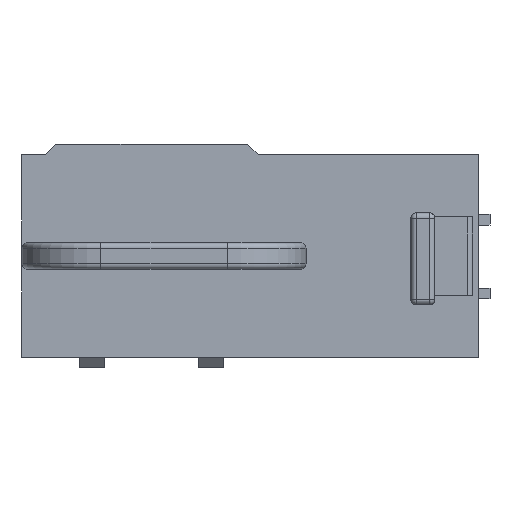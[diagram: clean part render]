
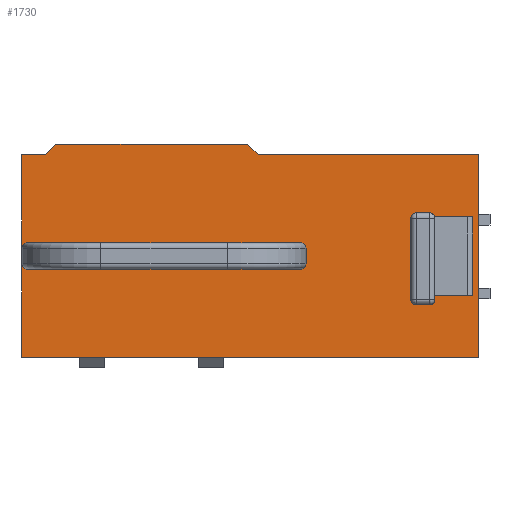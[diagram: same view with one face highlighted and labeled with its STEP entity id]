
A CAD part, left-side view. The second image highlights one B-rep face of the part: STEP entity #1730.
In plain terms, the highlighted planar face has unit normal (-1, 0, 0).
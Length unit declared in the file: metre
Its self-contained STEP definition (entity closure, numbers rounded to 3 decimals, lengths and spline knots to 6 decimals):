
#54=CIRCLE('',#1851,0.001);
#55=CIRCLE('',#1852,0.001);
#56=CIRCLE('',#1853,0.001);
#57=CIRCLE('',#1854,0.001);
#58=CIRCLE('',#1855,0.001);
#59=CIRCLE('',#1856,0.001);
#60=CIRCLE('',#1857,0.001);
#61=CIRCLE('',#1858,0.001);
#132=ORIENTED_EDGE('',*,*,#644,.F.);
#133=ORIENTED_EDGE('',*,*,#645,.T.);
#134=ORIENTED_EDGE('',*,*,#646,.T.);
#135=ORIENTED_EDGE('',*,*,#647,.T.);
#136=ORIENTED_EDGE('',*,*,#648,.T.);
#137=ORIENTED_EDGE('',*,*,#649,.T.);
#138=ORIENTED_EDGE('',*,*,#650,.F.);
#139=ORIENTED_EDGE('',*,*,#651,.T.);
#140=ORIENTED_EDGE('',*,*,#652,.F.);
#141=ORIENTED_EDGE('',*,*,#653,.T.);
#142=ORIENTED_EDGE('',*,*,#654,.T.);
#143=ORIENTED_EDGE('',*,*,#655,.T.);
#144=ORIENTED_EDGE('',*,*,#656,.T.);
#145=ORIENTED_EDGE('',*,*,#657,.T.);
#146=ORIENTED_EDGE('',*,*,#658,.T.);
#147=ORIENTED_EDGE('',*,*,#659,.F.);
#148=ORIENTED_EDGE('',*,*,#660,.F.);
#149=ORIENTED_EDGE('',*,*,#661,.T.);
#150=ORIENTED_EDGE('',*,*,#662,.T.);
#151=ORIENTED_EDGE('',*,*,#663,.T.);
#152=ORIENTED_EDGE('',*,*,#664,.T.);
#153=ORIENTED_EDGE('',*,*,#665,.T.);
#154=ORIENTED_EDGE('',*,*,#666,.T.);
#155=ORIENTED_EDGE('',*,*,#667,.T.);
#156=ORIENTED_EDGE('',*,*,#668,.F.);
#157=ORIENTED_EDGE('',*,*,#639,.T.);
#158=ORIENTED_EDGE('',*,*,#669,.T.);
#159=ORIENTED_EDGE('',*,*,#670,.F.);
#639=EDGE_CURVE('',#896,#895,#1056,.T.);
#644=EDGE_CURVE('',#899,#900,#1060,.T.);
#645=EDGE_CURVE('',#899,#901,#54,.F.);
#646=EDGE_CURVE('',#901,#902,#1061,.T.);
#647=EDGE_CURVE('',#902,#903,#55,.F.);
#648=EDGE_CURVE('',#903,#904,#1062,.T.);
#649=EDGE_CURVE('',#904,#905,#56,.F.);
#650=EDGE_CURVE('',#906,#905,#1063,.T.);
#651=EDGE_CURVE('',#906,#900,#57,.F.);
#652=EDGE_CURVE('',#907,#908,#1064,.T.);
#653=EDGE_CURVE('',#907,#909,#58,.F.);
#654=EDGE_CURVE('',#909,#910,#1065,.T.);
#655=EDGE_CURVE('',#910,#911,#59,.F.);
#656=EDGE_CURVE('',#911,#912,#1066,.T.);
#657=EDGE_CURVE('',#912,#913,#60,.F.);
#658=EDGE_CURVE('',#913,#914,#1067,.T.);
#659=EDGE_CURVE('',#915,#914,#1068,.T.);
#660=EDGE_CURVE('',#916,#915,#1069,.T.);
#661=EDGE_CURVE('',#916,#917,#1070,.T.);
#662=EDGE_CURVE('',#917,#918,#1071,.T.);
#663=EDGE_CURVE('',#918,#919,#1072,.T.);
#664=EDGE_CURVE('',#919,#920,#1073,.F.);
#665=EDGE_CURVE('',#920,#921,#1074,.T.);
#666=EDGE_CURVE('',#921,#922,#1075,.T.);
#667=EDGE_CURVE('',#922,#908,#61,.F.);
#668=EDGE_CURVE('',#896,#923,#1076,.T.);
#669=EDGE_CURVE('',#895,#924,#1077,.T.);
#670=EDGE_CURVE('',#923,#924,#1078,.T.);
#895=VERTEX_POINT('',#2566);
#896=VERTEX_POINT('',#2568);
#899=VERTEX_POINT('',#2577);
#900=VERTEX_POINT('',#2578);
#901=VERTEX_POINT('',#2580);
#902=VERTEX_POINT('',#2582);
#903=VERTEX_POINT('',#2584);
#904=VERTEX_POINT('',#2586);
#905=VERTEX_POINT('',#2588);
#906=VERTEX_POINT('',#2590);
#907=VERTEX_POINT('',#2593);
#908=VERTEX_POINT('',#2594);
#909=VERTEX_POINT('',#2596);
#910=VERTEX_POINT('',#2598);
#911=VERTEX_POINT('',#2600);
#912=VERTEX_POINT('',#2602);
#913=VERTEX_POINT('',#2604);
#914=VERTEX_POINT('',#2606);
#915=VERTEX_POINT('',#2608);
#916=VERTEX_POINT('',#2610);
#917=VERTEX_POINT('',#2612);
#918=VERTEX_POINT('',#2614);
#919=VERTEX_POINT('',#2616);
#920=VERTEX_POINT('',#2618);
#921=VERTEX_POINT('',#2620);
#922=VERTEX_POINT('',#2622);
#923=VERTEX_POINT('',#2625);
#924=VERTEX_POINT('',#2627);
#1056=LINE('',#2567,#1251);
#1060=LINE('',#2576,#1255);
#1061=LINE('',#2581,#1256);
#1062=LINE('',#2585,#1257);
#1063=LINE('',#2589,#1258);
#1064=LINE('',#2592,#1259);
#1065=LINE('',#2597,#1260);
#1066=LINE('',#2601,#1261);
#1067=LINE('',#2605,#1262);
#1068=LINE('',#2607,#1263);
#1069=LINE('',#2609,#1264);
#1070=LINE('',#2611,#1265);
#1071=LINE('',#2613,#1266);
#1072=LINE('',#2615,#1267);
#1073=LINE('',#2617,#1268);
#1074=LINE('',#2619,#1269);
#1075=LINE('',#2621,#1270);
#1076=LINE('',#2624,#1271);
#1077=LINE('',#2626,#1272);
#1078=LINE('',#2628,#1273);
#1251=VECTOR('',#2032,1.);
#1255=VECTOR('',#2040,1.);
#1256=VECTOR('',#2043,1.);
#1257=VECTOR('',#2046,1.);
#1258=VECTOR('',#2049,1.);
#1259=VECTOR('',#2052,1.);
#1260=VECTOR('',#2055,1.);
#1261=VECTOR('',#2058,1.);
#1262=VECTOR('',#2061,1.);
#1263=VECTOR('',#2062,1.);
#1264=VECTOR('',#2063,1.);
#1265=VECTOR('',#2064,1.);
#1266=VECTOR('',#2065,1.);
#1267=VECTOR('',#2066,1.);
#1268=VECTOR('',#2067,1.);
#1269=VECTOR('',#2068,1.);
#1270=VECTOR('',#2069,1.);
#1271=VECTOR('',#2072,1.);
#1272=VECTOR('',#2073,1.);
#1273=VECTOR('',#2074,1.);
#1439=EDGE_LOOP('',(#132,#133,#134,#135,#136,#137,#138,#139));
#1440=EDGE_LOOP('',(#140,#141,#142,#143,#144,#145,#146,#147,#148,#149,#150,
#151,#152,#153,#154,#155));
#1441=EDGE_LOOP('',(#156,#157,#158,#159));
#1552=FACE_BOUND('',#1439,.T.);
#1553=FACE_BOUND('',#1440,.T.);
#1554=FACE_BOUND('',#1441,.T.);
#1665=PLANE('',#1850);
#1730=ADVANCED_FACE('',(#1552,#1553,#1554),#1665,.T.);
#1850=AXIS2_PLACEMENT_3D('',#2575,#2038,#2039);
#1851=AXIS2_PLACEMENT_3D('',#2579,#2041,#2042);
#1852=AXIS2_PLACEMENT_3D('',#2583,#2044,#2045);
#1853=AXIS2_PLACEMENT_3D('',#2587,#2047,#2048);
#1854=AXIS2_PLACEMENT_3D('',#2591,#2050,#2051);
#1855=AXIS2_PLACEMENT_3D('',#2595,#2053,#2054);
#1856=AXIS2_PLACEMENT_3D('',#2599,#2056,#2057);
#1857=AXIS2_PLACEMENT_3D('',#2603,#2059,#2060);
#1858=AXIS2_PLACEMENT_3D('',#2623,#2070,#2071);
#2032=DIRECTION('',(0.,1.,0.));
#2038=DIRECTION('',(-1.,0.,0.));
#2039=DIRECTION('',(0.,0.,1.));
#2040=DIRECTION('',(0.,1.,0.));
#2041=DIRECTION('',(-1.,0.,0.));
#2042=DIRECTION('',(0.,0.,1.));
#2043=DIRECTION('',(0.,0.,-1.));
#2044=DIRECTION('',(-1.,0.,0.));
#2045=DIRECTION('',(0.,0.,1.));
#2046=DIRECTION('',(0.,1.,0.));
#2047=DIRECTION('',(-1.,0.,0.));
#2048=DIRECTION('',(0.,0.,1.));
#2049=DIRECTION('',(0.,0.,-1.));
#2050=DIRECTION('',(-1.,0.,0.));
#2051=DIRECTION('',(0.,0.,1.));
#2052=DIRECTION('',(0.,1.,0.));
#2053=DIRECTION('',(-1.,0.,0.));
#2054=DIRECTION('',(0.,0.,1.));
#2055=DIRECTION('',(0.,0.,-1.));
#2056=DIRECTION('',(-1.,0.,0.));
#2057=DIRECTION('',(0.,0.,1.));
#2058=DIRECTION('',(0.,1.,0.));
#2059=DIRECTION('',(-1.,0.,0.));
#2060=DIRECTION('',(0.,0.,1.));
#2061=DIRECTION('',(0.,0.,-1.));
#2062=DIRECTION('',(0.,1.,0.));
#2063=DIRECTION('',(0.,0.,-1.));
#2064=DIRECTION('',(0.,1.,0.));
#2065=DIRECTION('',(0.,0.707,0.707));
#2066=DIRECTION('',(0.,1.,0.));
#2067=DIRECTION('',(0.,-0.707,0.707));
#2068=DIRECTION('',(0.,1.,0.));
#2069=DIRECTION('',(0.,0.,-1.));
#2070=DIRECTION('',(-1.,0.,0.));
#2071=DIRECTION('',(0.,0.,1.));
#2072=DIRECTION('',(0.,0.,1.));
#2073=DIRECTION('',(0.,0.,1.));
#2074=DIRECTION('',(0.,1.,0.));
#2566=CARTESIAN_POINT('',(-0.09525,-0.04135,0.0117));
#2567=CARTESIAN_POINT('',(-0.09525,-0.04185,0.0117));
#2568=CARTESIAN_POINT('',(-0.09525,-0.04235,0.0117));
#2575=CARTESIAN_POINT('',(-0.09525,0.03885,0.0385));
#2576=CARTESIAN_POINT('',(-0.09525,-0.00615,0.02175));
#2577=CARTESIAN_POINT('',(-0.09525,-0.00965,0.02175));
#2578=CARTESIAN_POINT('',(-0.09525,-0.00265,0.02175));
#2579=CARTESIAN_POINT('',(-0.09525,-0.00965,0.02075));
#2580=CARTESIAN_POINT('',(-0.09525,-0.01065,0.02075));
#2581=CARTESIAN_POINT('',(-0.09525,-0.01065,0.02175));
#2582=CARTESIAN_POINT('',(-0.09525,-0.01065,0.01775));
#2583=CARTESIAN_POINT('',(-0.09525,-0.00965,0.01775));
#2584=CARTESIAN_POINT('',(-0.09525,-0.00965,0.01675));
#2585=CARTESIAN_POINT('',(-0.09525,-0.00615,0.01675));
#2586=CARTESIAN_POINT('',(-0.09525,-0.00265,0.01675));
#2587=CARTESIAN_POINT('',(-0.09525,-0.00265,0.01775));
#2588=CARTESIAN_POINT('',(-0.09525,-0.00165,0.01775));
#2589=CARTESIAN_POINT('',(-0.09525,-0.00165,0.02175));
#2590=CARTESIAN_POINT('',(-0.09525,-0.00165,0.02075));
#2591=CARTESIAN_POINT('',(-0.09525,-0.00265,0.02075));
#2592=CARTESIAN_POINT('',(-0.09525,0.03885,0.02175));
#2593=CARTESIAN_POINT('',(-0.09525,0.03535,0.02175));
#2594=CARTESIAN_POINT('',(-0.09525,0.04235,0.02175));
#2595=CARTESIAN_POINT('',(-0.09525,0.03535,0.02075));
#2596=CARTESIAN_POINT('',(-0.09525,0.03435,0.02075));
#2597=CARTESIAN_POINT('',(-0.09525,0.03435,0.02175));
#2598=CARTESIAN_POINT('',(-0.09525,0.03435,0.01775));
#2599=CARTESIAN_POINT('',(-0.09525,0.03535,0.01775));
#2600=CARTESIAN_POINT('',(-0.09525,0.03535,0.01675));
#2601=CARTESIAN_POINT('',(-0.09525,0.03885,0.01675));
#2602=CARTESIAN_POINT('',(-0.09525,0.04235,0.01675));
#2603=CARTESIAN_POINT('',(-0.09525,0.04235,0.01775));
#2604=CARTESIAN_POINT('',(-0.09525,0.04335,0.01775));
#2605=CARTESIAN_POINT('',(-0.09525,0.04335,0.0385));
#2606=CARTESIAN_POINT('',(-0.09525,0.04335,0.));
#2607=CARTESIAN_POINT('',(-0.09525,0.03885,0.));
#2608=CARTESIAN_POINT('',(-0.09525,-0.04335,0.));
#2609=CARTESIAN_POINT('',(-0.09525,-0.04335,0.0385));
#2610=CARTESIAN_POINT('',(-0.09525,-0.04335,0.0385));
#2611=CARTESIAN_POINT('',(-0.09525,0.03885,0.0385));
#2612=CARTESIAN_POINT('',(-0.09525,-0.00155,0.0385));
#2613=CARTESIAN_POINT('',(-0.09525,0.01865,0.0587));
#2614=CARTESIAN_POINT('',(-0.09525,0.00045,0.0405));
#2615=CARTESIAN_POINT('',(-0.09525,0.03885,0.0405));
#2616=CARTESIAN_POINT('',(-0.09525,0.03695,0.0405));
#2617=CARTESIAN_POINT('',(-0.09525,0.0389,0.03855));
#2618=CARTESIAN_POINT('',(-0.09525,0.03895,0.0385));
#2619=CARTESIAN_POINT('',(-0.09525,0.03885,0.0385));
#2620=CARTESIAN_POINT('',(-0.09525,0.04335,0.0385));
#2621=CARTESIAN_POINT('',(-0.09525,0.04335,0.0385));
#2622=CARTESIAN_POINT('',(-0.09525,0.04335,0.02075));
#2623=CARTESIAN_POINT('',(-0.09525,0.04235,0.02075));
#2624=CARTESIAN_POINT('',(-0.09525,-0.04235,0.0117));
#2625=CARTESIAN_POINT('',(-0.09525,-0.04235,0.0267));
#2626=CARTESIAN_POINT('',(-0.09525,-0.04135,0.0117));
#2627=CARTESIAN_POINT('',(-0.09525,-0.04135,0.0267));
#2628=CARTESIAN_POINT('',(-0.09525,-0.04185,0.0267));
